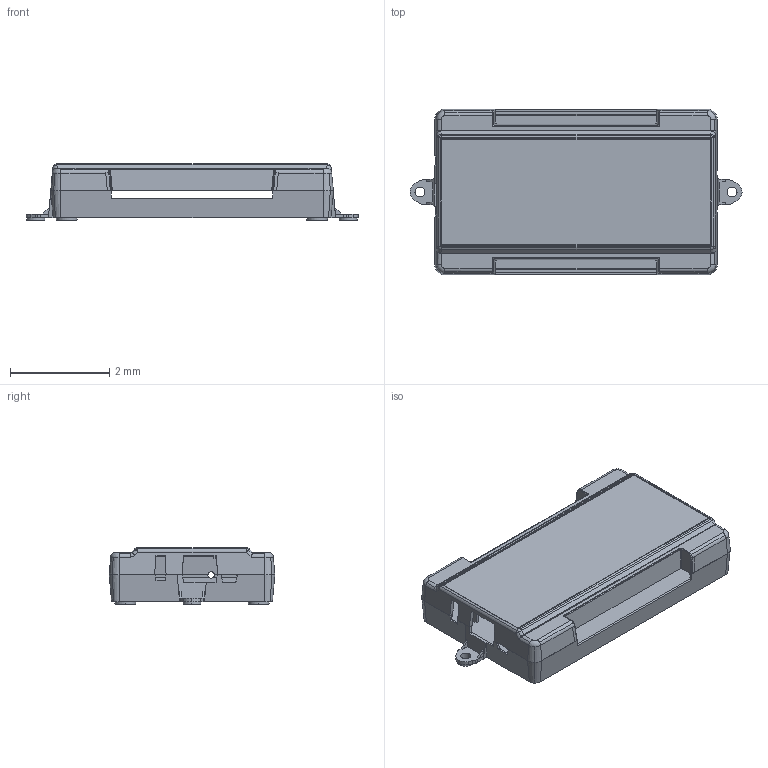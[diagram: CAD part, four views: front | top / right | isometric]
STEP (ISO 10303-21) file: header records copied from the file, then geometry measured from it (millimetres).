
FILE_DESCRIPTION(('STEP AP214'),'1');
FILE_NAME('F:/Drawings/tmp0.stp','2023-04-12T14:46:23',(' '),(' '),'Spatial InterOp 3D',' ',' ');
FILE_SCHEMA(('automotive_design'));
Length unit declared in the file: inch
Products named in the file (2): 1; 2
Bounding box: 6.71 x 3.35 x 1.15 mm (x, y, z)
Volume: 4 mm3; surface area: 108.9 mm2
Topology: 2 solids, 2 shells, 746 faces, 1992 edges, 1271 vertices
Faces by surface type: plane 243, cylinder 234, cone 200, bspline 28, torus 27, sphere 14
Entity records: 32692 total; most frequent: CARTESIAN_POINT 7522, DIRECTION 4253, ORIENTED_EDGE 3980, EDGE_CURVE 1990, AXIS2_PLACEMENT_3D 1640, VERTEX_POINT 1271, LINE 973, VECTOR 973
